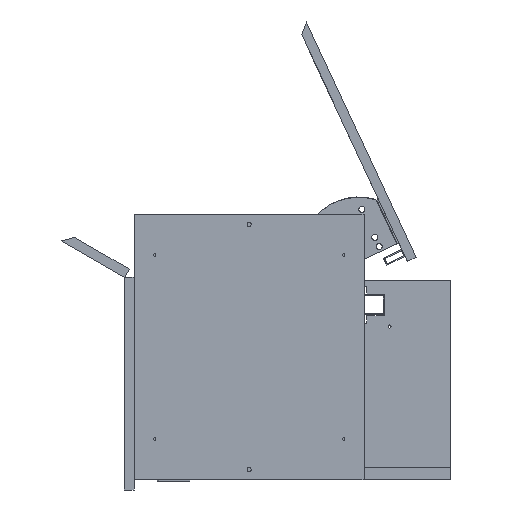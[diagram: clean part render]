
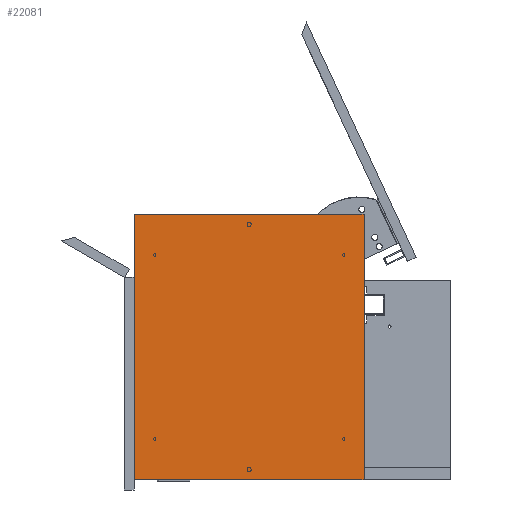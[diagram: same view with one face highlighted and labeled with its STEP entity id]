
A CAD part, left-side view. The second image highlights one B-rep face of the part: STEP entity #22081.
In plain terms, the highlighted planar face has unit normal (-1, 0, 0) as drawn and (0, -1, 0) by its records, which use the part's own axes.
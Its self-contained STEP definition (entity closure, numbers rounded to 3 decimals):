
#1195 = VERTEX_POINT ( 'NONE', #1434 ) ;
#1210 = LINE ( 'NONE', #6679, #22517 ) ;
#1434 = CARTESIAN_POINT ( 'NONE',  ( 260., 0., -225. ) ) ;
#2347 = EDGE_CURVE ( 'NONE', #17375, #1195, #20998, .T. ) ;
#2957 = DIRECTION ( 'NONE',  ( 0., -1., 0. ) ) ;
#3333 = EDGE_LOOP ( 'NONE', ( #31929, #32227, #15052, #19662 ) ) ;
#3819 = CARTESIAN_POINT ( 'NONE',  ( -260., 0., -225. ) ) ;
#5771 = DIRECTION ( 'NONE',  ( 0., 0., -1. ) ) ;
#6679 = CARTESIAN_POINT ( 'NONE',  ( -260., 0., 225. ) ) ;
#7587 = AXIS2_PLACEMENT_3D ( 'NONE', #27022, #2957, #5771 ) ;
#8230 = PLANE ( 'NONE',  #7587 ) ;
#8691 = VECTOR ( 'NONE', #21933, 1000. ) ;
#10854 = FACE_OUTER_BOUND ( 'NONE', #3333, .T. ) ;
#11300 = LINE ( 'NONE', #13405, #28275 ) ;
#11529 = VECTOR ( 'NONE', #34015, 1000. ) ;
#13405 = CARTESIAN_POINT ( 'NONE',  ( -260., 0., 225. ) ) ;
#13676 = CARTESIAN_POINT ( 'NONE',  ( -260., 0., -225. ) ) ;
#13817 = CARTESIAN_POINT ( 'NONE',  ( 260., 0., 225. ) ) ;
#15052 = ORIENTED_EDGE ( 'NONE', *, *, #31969, .F. ) ;
#16018 = CARTESIAN_POINT ( 'NONE',  ( -260., 0., 225. ) ) ;
#16859 = VERTEX_POINT ( 'NONE', #16018 ) ;
#17031 = EDGE_CURVE ( 'NONE', #16859, #17375, #1210, .T. ) ;
#17365 = DIRECTION ( 'NONE',  ( 1., 0., 0. ) ) ;
#17375 = VERTEX_POINT ( 'NONE', #13817 ) ;
#19662 = ORIENTED_EDGE ( 'NONE', *, *, #20159, .F. ) ;
#20159 = EDGE_CURVE ( 'NONE', #1195, #31261, #30030, .T. ) ;
#20998 = LINE ( 'NONE', #31725, #11529 ) ;
#21933 = DIRECTION ( 'NONE',  ( -1., 0., 0. ) ) ;
#22081 = ADVANCED_FACE ( 'NONE', ( #10854 ), #8230, .T. ) ;
#22517 = VECTOR ( 'NONE', #17365, 1000. ) ;
#27022 = CARTESIAN_POINT ( 'NONE',  ( 0., 0., 0. ) ) ;
#28275 = VECTOR ( 'NONE', #29930, 1000. ) ;
#29930 = DIRECTION ( 'NONE',  ( 0., 0., 1. ) ) ;
#30030 = LINE ( 'NONE', #13676, #8691 ) ;
#31261 = VERTEX_POINT ( 'NONE', #3819 ) ;
#31725 = CARTESIAN_POINT ( 'NONE',  ( 260., 0., 225. ) ) ;
#31929 = ORIENTED_EDGE ( 'NONE', *, *, #2347, .F. ) ;
#31969 = EDGE_CURVE ( 'NONE', #31261, #16859, #11300, .T. ) ;
#32227 = ORIENTED_EDGE ( 'NONE', *, *, #17031, .F. ) ;
#34015 = DIRECTION ( 'NONE',  ( 0., 0., -1. ) ) ;
